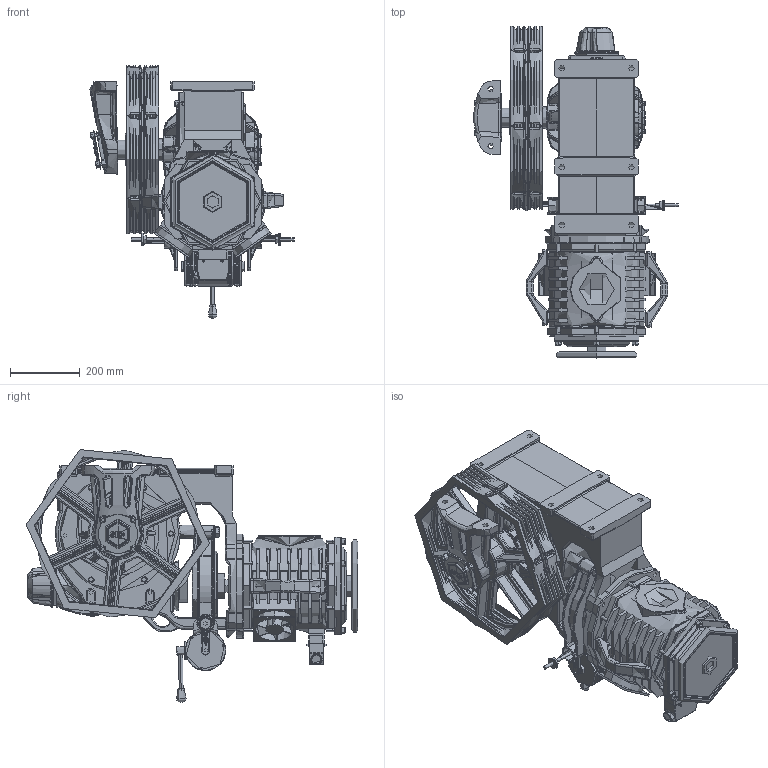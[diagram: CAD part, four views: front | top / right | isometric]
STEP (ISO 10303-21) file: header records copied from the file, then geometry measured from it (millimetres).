
FILE_DESCRIPTION (( 'STEP AP214' ), '1' );
FILE_NAME ('ST90200.STEP', '2026-01-14T08:56:59', ( '' ), ( '' ), 'SwSTEP 2.0', 'SolidWorks 2023', '' );
FILE_SCHEMA (( 'AUTOMOTIVE_DESIGN' ));
Length unit declared in the file: millimetre
Products named in the file (1): ST90200
Bounding box: 586.99 x 954.09 x 726.64 mm (x, y, z)
Topology: 75 solids, 83 shells, 6138 faces, 14694 edges, 8922 vertices
Faces by surface type: cylinder 1818, plane 1593, bspline 1383, torus 677, cone 550, sphere 117
Full cylindrical faces by diameter (mm): 20 x3
Entity records: 236619 total; most frequent: CARTESIAN_POINT 103075, ORIENTED_EDGE 29224, DIRECTION 25952, EDGE_CURVE 14612, AXIS2_PLACEMENT_3D 10727, VERTEX_POINT 8907, EDGE_LOOP 6745, ADVANCED_FACE 6138
